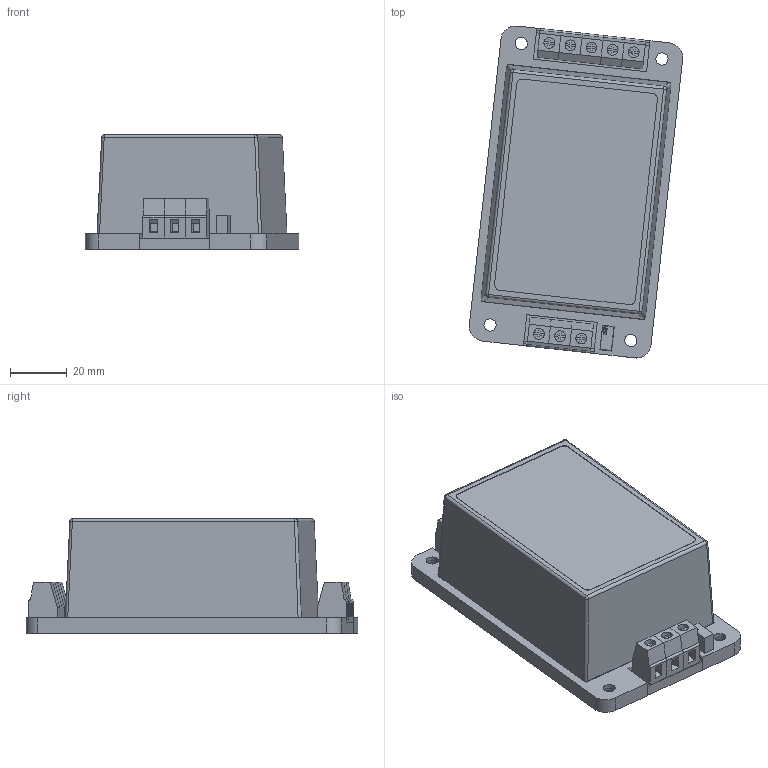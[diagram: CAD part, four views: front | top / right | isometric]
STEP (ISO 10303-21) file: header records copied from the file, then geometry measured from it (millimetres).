
FILE_DESCRIPTION(/* description */ (''),/* implementation_level */ '2;1');
FILE_NAME(/* name */ 'D:\Inventor\MQCS100_MQF120\MQCS100 - A2.stp',/* time_stamp */ '2021-06-23T10:11:22+08:00',/* author */ ('peter'),/* organization */ (''),/* preprocessor_version */ 'ST-DEVELOPER v15.2',/* originating_system */ 'Autodesk Inventor 2014',/* authorisation */ '');
FILE_SCHEMA (('AUTOMOTIVE_DESIGN { 1 0 10303 214 3 1 1 }'));
Length unit declared in the file: millimetre
Products named in the file (14): A2 PCB; A2 TOP CASE _ MQCS100; A2 BOT CASE; M3 - 4 X 4 mm; DT-128-01; INLET - A2 - IN; FUSE; INLET - A2 - OUT; BOT CASE _ 3.3 x 2.3 x 1.38 inch; M3 x 5 mm; TOP CASE _ 3.3 x 2.3 x 1.38 inch; CASE; MQCS100 - A2
Bounding box: 75.39 x 117.19 x 40.5 mm (x, y, z)
Volume: 63232.3 mm3; surface area: 88644.8 mm2
Topology: 21 solids, 21 shells, 918 faces, 2354 edges, 1558 vertices
Faces by surface type: plane 626, cylinder 131, bspline 125, cone 28, torus 4, sphere 4
Full cylindrical faces by diameter (mm): 1.4 x4, 1.5 x10, 2 x2, 2.459 x7, 2.5 x5, 3.5 x4, 3.8 x8, 4 x16, 4.3 x12, 6.5 x3, 6.9 x4
Entity records: 19616 total; most frequent: CARTESIAN_POINT 4884, ORIENTED_EDGE 3050, DIRECTION 2548, EDGE_CURVE 1525, VERTEX_POINT 1053, LINE 1050, VECTOR 1050, EDGE_LOOP 798
